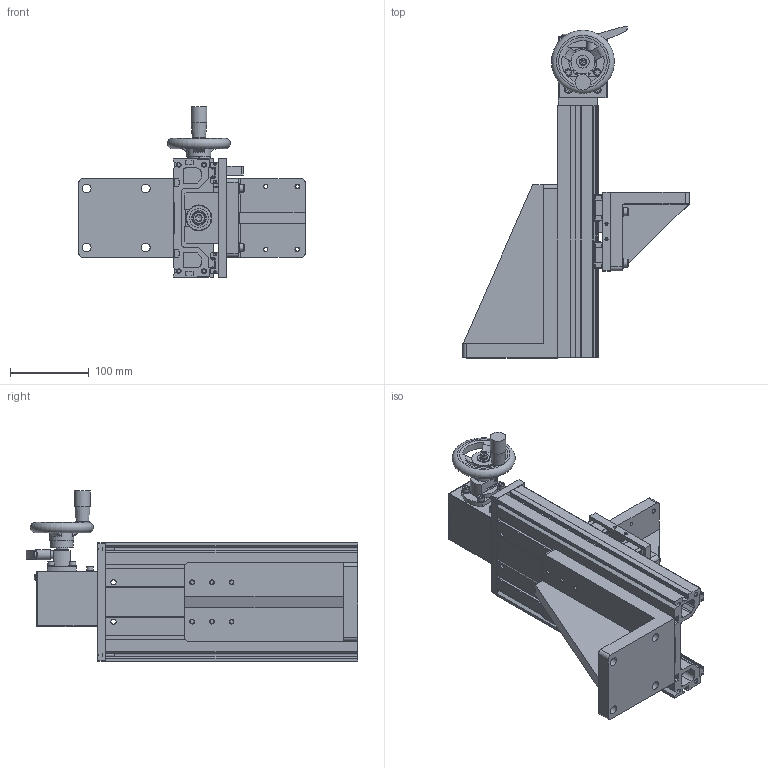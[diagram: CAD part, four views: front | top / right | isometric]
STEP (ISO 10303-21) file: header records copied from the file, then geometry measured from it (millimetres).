
FILE_DESCRIPTION((''),'2;1');
FILE_NAME('C:\Users\HONOR\AppData\Local\Temp\Mastercam 2018\16MI6QEGGK\TEMP.stp','2021-06-25T14:46:42',(''),(''),'STEP Write','Mastercam 2018 ... CNC Software, Inc.','');
FILE_SCHEMA(('AUTOMOTIVE_DESIGN'));
Length unit declared in the file: millimetre
Products named in the file (1): None
Bounding box: 287.5 x 421.5 x 216 mm (x, y, z)
Volume: 2663612.4 mm3; surface area: 695739.4 mm2
Topology: 51 solids, 51 shells, 2901 faces, 7077 edges, 4611 vertices
Faces by surface type: plane 1905, cylinder 680, cone 296, torus 18, sphere 2
Full cylindrical faces by diameter (mm): 1 x1, 2.459 x16, 3 x58, 3.242 x6, 3.5 x42, 4 x2, 4.134 x29, 4.917 x22, 5 x18, 5.1 x2, 5.2 x2, 5.5 x42, 6 x40, 6.1 x4, 6.5 x20, 6.6 x12, 6.647 x2, 8 x6, 8.376 x1, 8.5 x13, 9.2 x13, 10 x25, 10.2 x1, 10.5 x9, 11 x10, 12 x3, 12.1 x1, 12.2 x6, 13 x1, 15 x2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
Entity records: 84088 total; most frequent: CARTESIAN_POINT 14784, DIRECTION 13624, ORIENTED_EDGE 12426, EDGE_CURVE 6213, AXIS2_PLACEMENT_3D 4590, VERTEX_POINT 4480, VECTOR 4444, LINE 4444
